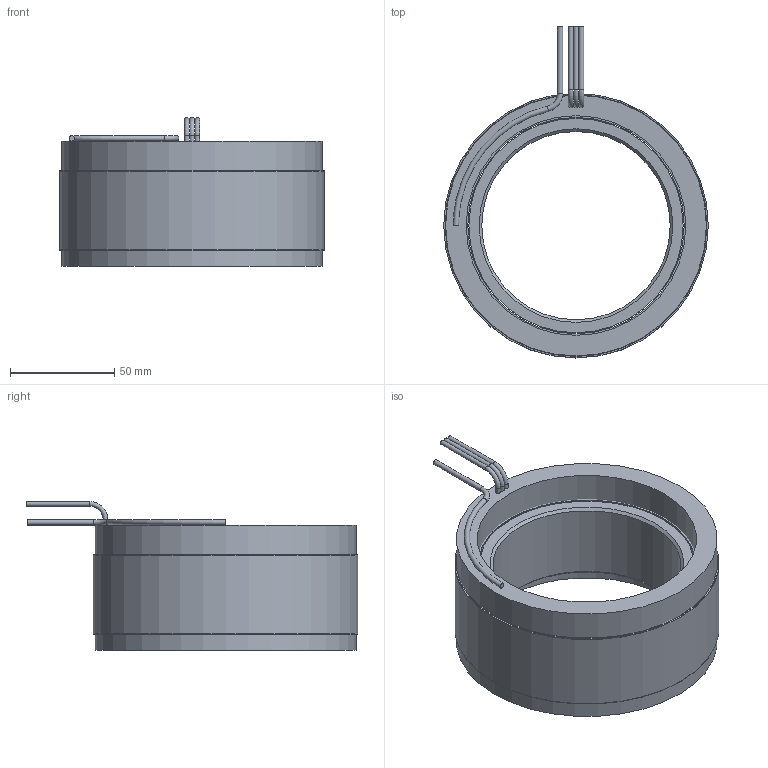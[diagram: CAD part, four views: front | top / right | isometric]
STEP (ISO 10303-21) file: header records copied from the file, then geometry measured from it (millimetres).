
FILE_DESCRIPTION (( 'STEP AP214' ), '1' );
FILE_NAME ('6100396-05.STEP', '2020-12-15T18:10:19', ( '' ), ( '' ), 'SwSTEP 2.0', 'SolidWorks 2016', '' );
FILE_SCHEMA (( 'AUTOMOTIVE_DESIGN' ));
Length unit declared in the file: inch
Products named in the file (10): 4500562-XX_4500562-05; 4400105-00; COMP4500562-XX(COIL)_COMP4500562-05(COIL); 4250384-XX_4250384-05; 6100396-05; 4450193-XX_4450193-05; 4150182-XX_4150182-05; 4600569-00
Assembly tree (10 placements, depth 4):
  6100396-05
    4250384-XX_4250384-05
      4150182-XX_4150182-05
    4500562-XX_4500562-05
      4450193-XX_4450193-05
        4450193-XX_4450193-05
        4400105-00
        4400105-00
        4600569-00  x2
      COMP4500562-XX(COIL)_COMP4500562-05(COIL)
Bounding box: 127 x 159.26 x 71.5 mm (x, y, z)
Volume: 450412.5 mm3; surface area: 148127.9 mm2
Topology: 8 solids, 8 shells, 47 faces, 74 edges, 46 vertices
Faces by surface type: cylinder 21, plane 19, torus 5, cone 2
Full cylindrical faces by diameter (mm): 2.286 x6, 2.54 x1, 90.424 x1, 102.87 x1, 103.886 x5, 105.41 x1, 125.222 x1, 125.73 x2, 127 x3
Entity records: 1305 total; most frequent: DIRECTION 202, CARTESIAN_POINT 143, AXIS2_PLACEMENT_3D 101, EDGE_LOOP 84, ORIENTED_EDGE 84, FACE_OUTER_BOUND 67, ADVANCED_FACE 43, VERTEX_POINT 42
